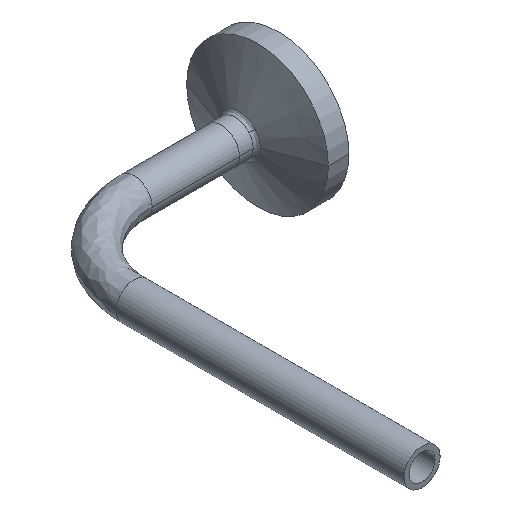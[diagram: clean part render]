
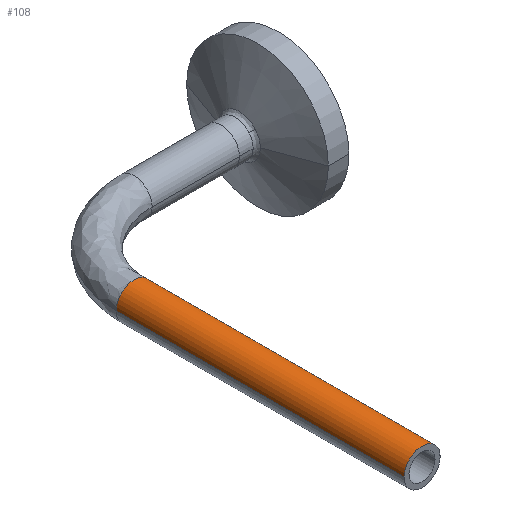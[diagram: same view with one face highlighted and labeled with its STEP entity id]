
A CAD part, isometric view. The second image highlights one B-rep face of the part: STEP entity #108.
In plain terms, the highlighted cylindrical face has radius 3.175 mm (diameter 6.35 mm), a partial arc.
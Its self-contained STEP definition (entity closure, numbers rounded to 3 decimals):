
#108 = ADVANCED_FACE ( 'NONE', ( #1101 ), #308, .T. ) ;
#120 = VERTEX_POINT ( 'NONE', #342 ) ;
#166 = CARTESIAN_POINT ( 'NONE',  ( 3.175, 50.8, 0. ) ) ;
#234 = DIRECTION ( 'NONE',  ( 0., -1., 0. ) ) ;
#279 = LINE ( 'NONE', #166, #1255 ) ;
#283 = DIRECTION ( 'NONE',  ( 1., 0., 0. ) ) ;
#305 = ORIENTED_EDGE ( 'NONE', *, *, #597, .T. ) ;
#308 = CYLINDRICAL_SURFACE ( 'NONE', #1275, 3.175 ) ;
#309 = EDGE_CURVE ( 'NONE', #535, #566, #474, .T. ) ;
#342 = CARTESIAN_POINT ( 'NONE',  ( 3.175, 0., 0. ) ) ;
#426 = DIRECTION ( 'NONE',  ( 1., 0., 0. ) ) ;
#433 = DIRECTION ( 'NONE',  ( 0., -1., 0. ) ) ;
#437 = CARTESIAN_POINT ( 'NONE',  ( 0., 50.8, 0. ) ) ;
#474 = LINE ( 'NONE', #533, #732 ) ;
#480 = CARTESIAN_POINT ( 'NONE',  ( 0., 50.8, 0. ) ) ;
#503 = EDGE_CURVE ( 'NONE', #566, #120, #1228, .T. ) ;
#533 = CARTESIAN_POINT ( 'NONE',  ( -3.175, 50.8, 0. ) ) ;
#535 = VERTEX_POINT ( 'NONE', #946 ) ;
#566 = VERTEX_POINT ( 'NONE', #718 ) ;
#597 = EDGE_CURVE ( 'NONE', #907, #535, #1155, .T. ) ;
#718 = CARTESIAN_POINT ( 'NONE',  ( -3.175, 0., 0. ) ) ;
#732 = VECTOR ( 'NONE', #759, 1000. ) ;
#739 = ORIENTED_EDGE ( 'NONE', *, *, #309, .T. ) ;
#759 = DIRECTION ( 'NONE',  ( 0., -1., 0. ) ) ;
#765 = EDGE_CURVE ( 'NONE', #907, #120, #279, .T. ) ;
#877 = AXIS2_PLACEMENT_3D ( 'NONE', #437, #433, #426 ) ;
#900 = CARTESIAN_POINT ( 'NONE',  ( 3.175, 50.8, 0. ) ) ;
#907 = VERTEX_POINT ( 'NONE', #900 ) ;
#946 = CARTESIAN_POINT ( 'NONE',  ( -3.175, 50.8, 0. ) ) ;
#976 = DIRECTION ( 'NONE',  ( 0., -1., 0. ) ) ;
#1006 = DIRECTION ( 'NONE',  ( 1., 0., 0. ) ) ;
#1011 = DIRECTION ( 'NONE',  ( 0., 1., 0. ) ) ;
#1018 = CARTESIAN_POINT ( 'NONE',  ( 0., 0., 0. ) ) ;
#1041 = ORIENTED_EDGE ( 'NONE', *, *, #765, .F. ) ;
#1045 = AXIS2_PLACEMENT_3D ( 'NONE', #1018, #1011, #1006 ) ;
#1075 = ORIENTED_EDGE ( 'NONE', *, *, #503, .T. ) ;
#1101 = FACE_OUTER_BOUND ( 'NONE', #1149, .T. ) ;
#1149 = EDGE_LOOP ( 'NONE', ( #305, #739, #1075, #1041 ) ) ;
#1155 = CIRCLE ( 'NONE', #877, 3.175 ) ;
#1228 = CIRCLE ( 'NONE', #1045, 3.175 ) ;
#1255 = VECTOR ( 'NONE', #234, 1000. ) ;
#1275 = AXIS2_PLACEMENT_3D ( 'NONE', #480, #976, #283 ) ;
